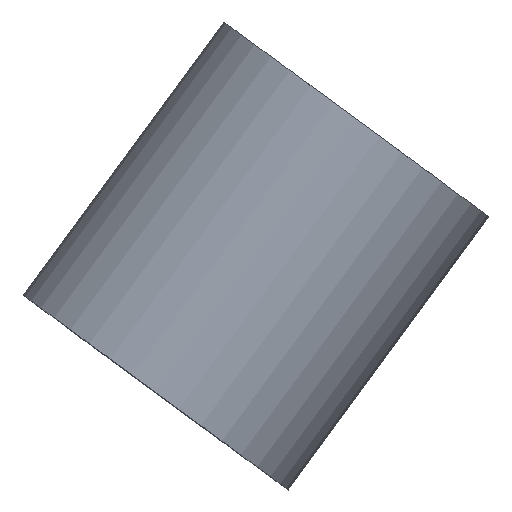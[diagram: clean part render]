
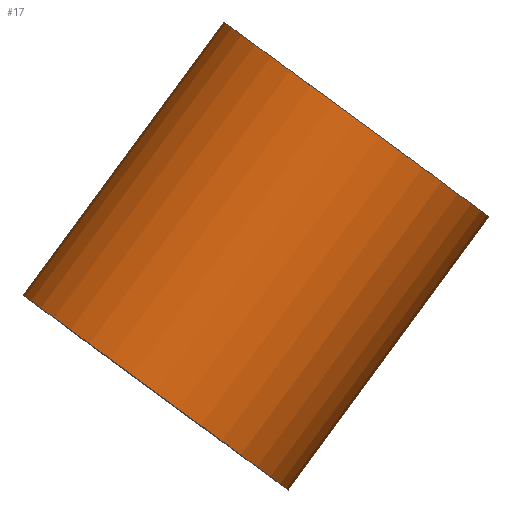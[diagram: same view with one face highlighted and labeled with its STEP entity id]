
A CAD part, top view. The second image highlights one B-rep face of the part: STEP entity #17.
In plain terms, the highlighted cylindrical face has radius 0.65 mm (diameter 1.3 mm), a full revolution.
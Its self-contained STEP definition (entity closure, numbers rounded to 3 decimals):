
#17 = ADVANCED_FACE('',(#18),#45,.T.);
#18 = FACE_BOUND('',#19,.T.);
#19 = EDGE_LOOP('',(#20,#29,#37,#44));
#20 = ORIENTED_EDGE('',*,*,#21,.F.);
#21 = EDGE_CURVE('',#22,#22,#24,.T.);
#22 = VERTEX_POINT('',#23);
#23 = CARTESIAN_POINT('',(8.647,9.468,-1.3));
#24 = CIRCLE('',#25,0.65);
#25 = AXIS2_PLACEMENT_3D('',#26,#27,#28);
#26 = CARTESIAN_POINT('',(8.124,9.853,-1.3));
#27 = DIRECTION('',(0.592,0.806,0.));
#28 = DIRECTION('',(0.806,-0.592,0.));
#29 = ORIENTED_EDGE('',*,*,#30,.F.);
#30 = EDGE_CURVE('',#31,#22,#33,.T.);
#31 = VERTEX_POINT('',#32);
#32 = CARTESIAN_POINT('',(7.854,8.388,-1.3));
#33 = LINE('',#34,#35);
#34 = CARTESIAN_POINT('',(7.854,8.388,-1.3));
#35 = VECTOR('',#36,1.);
#36 = DIRECTION('',(0.592,0.806,0.));
#37 = ORIENTED_EDGE('',*,*,#38,.T.);
#38 = EDGE_CURVE('',#31,#31,#39,.T.);
#39 = CIRCLE('',#40,0.65);
#40 = AXIS2_PLACEMENT_3D('',#41,#42,#43);
#41 = CARTESIAN_POINT('',(7.33,8.773,-1.3));
#42 = DIRECTION('',(0.592,0.806,0.));
#43 = DIRECTION('',(0.806,-0.592,0.));
#44 = ORIENTED_EDGE('',*,*,#30,.T.);
#45 = CYLINDRICAL_SURFACE('',#46,0.65);
#46 = AXIS2_PLACEMENT_3D('',#47,#48,#49);
#47 = CARTESIAN_POINT('',(7.33,8.773,-1.3));
#48 = DIRECTION('',(0.592,0.806,0.));
#49 = DIRECTION('',(0.806,-0.592,0.));
